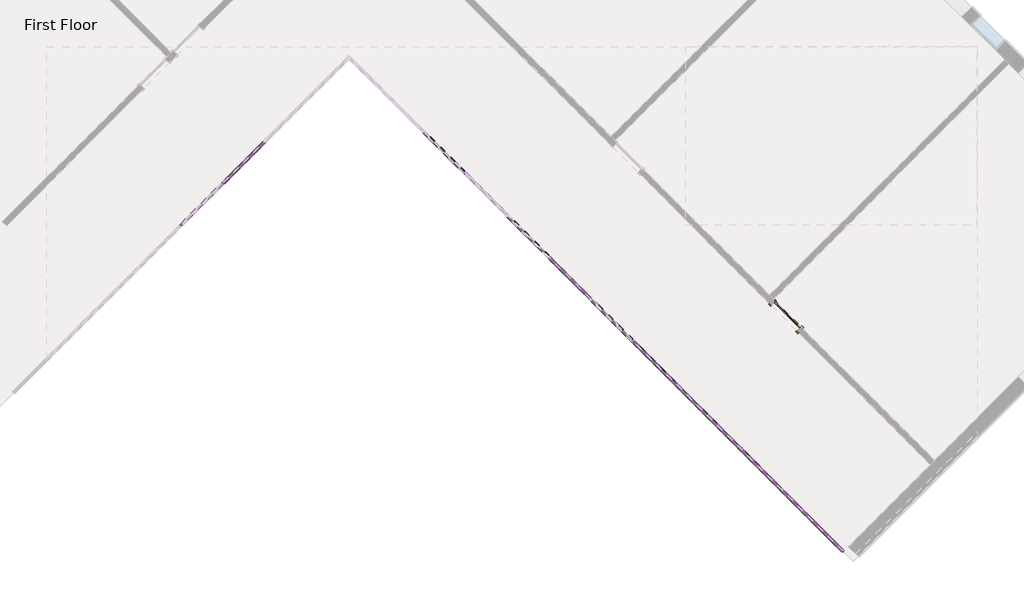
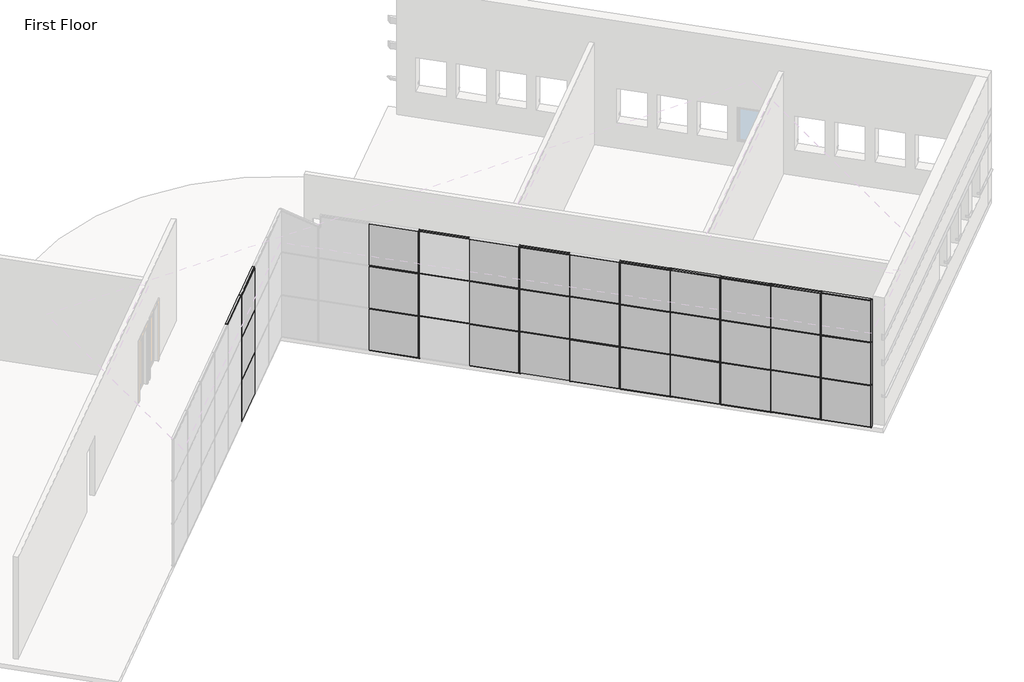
# One storey, part 2 of 5: 69 members, 30 plates, 1 door.
"""IFC4 building model written with IfcOpenShell, lengths in millimetres."""

from ifc_helpers import new_model, si_unit, origin, place, context, project, spatial, transform, mapped, element, save
from components import door_5f5b55da, member_b8a5b5c0, member_155beb68, member_f5090587, member_42be4715, member_6121af53, member_b87a50da, system_panel_solid_99f695d0, system_panel_solid_2f1037e2, system_panel_solid_51be2c86, system_panel_solid_5fd6f37f

model = new_model("IFC4")

# Units and contexts
model_context = context("Model", 3, world=origin())
ifc_project = project(units=[si_unit("LENGTHUNIT", "METRE", prefix="MILLI")], contexts=[model_context])

# Site, building, storey
site = spatial("IfcSite", under=ifc_project)
building = spatial("IfcBuilding", under=site)
storey = spatial("IfcBuildingStorey", under=building, Name="First Floor", Elevation=0.0)

# Door
placement = place(None, origin())
door_shape = door_5f5b55da(model_context)
element("IfcDoor", 1, ObjectType="Single-Glass 1 : 36\" x 84\"", at=placement, inside=storey, context=model_context, shape_type="MappedRepresentation", body=[
    mapped(door_shape, transform((7764.3490435, -4325.5874634, 0.0), x_axis=(-0.7071067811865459, 0.7071067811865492, 0.0), y_axis=(-0.7071067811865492, -0.7071067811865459, 0.0), z_axis=(0.0, 0.0, 1.0))),
])

# Members
member_shape = member_b8a5b5c0(model_context)
element("IfcMember", 2, ObjectType="Rectangular Mullion : 1.5\" x 2.5\" Rectangular", at=placement, inside=storey, context=model_context, shape_type="MappedRepresentation", body=[
    mapped(member_shape, transform((9212.415343, -10333.3788084, 0.0), x_axis=(0.0, 0.0, -1.0), y_axis=(0.707106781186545, 0.70710678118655, 0.0), z_axis=(0.7071067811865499, -0.7071067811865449, 0.0))),
])
member_2_shape = member_155beb68(model_context)
element("IfcMember", 3, ObjectType="Rectangular Mullion : 1.5\" x 2.5\" Rectangular", at=placement, inside=storey, context=model_context, shape_type="MappedRepresentation", body=[
    mapped(member_2_shape, transform((-6675.9027992, -910.8450733, 0.0), x_axis=(-0.7071067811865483, -0.7071067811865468, 0.0), y_axis=(-0.7071067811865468, 0.7071067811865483, 0.0), z_axis=(0.0, 0.0, -1.0))),
])
element("IfcMember", 4, ObjectType="Rectangular Mullion : 1.5\" x 2.5\" Rectangular", at=placement, inside=storey, context=model_context, shape_type="MappedRepresentation", body=[
    mapped(member_2_shape, transform((-7753.5335337, -1988.4758079, 0.0), x_axis=(-0.7071067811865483, -0.7071067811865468, 0.0), y_axis=(-0.7071067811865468, 0.7071067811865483, 0.0), z_axis=(0.0, 0.0, -1.0))),
])
element("IfcMember", 5, ObjectType="Rectangular Mullion : 1.5\" x 2.5\" Rectangular", at=placement, inside=storey, context=model_context, shape_type="MappedRepresentation", body=[
    mapped(member_2_shape, transform((8161.7253768, -9282.6888422, 0.0), x_axis=(-0.7071067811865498, 0.7071067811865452, 0.0), y_axis=(0.7071067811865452, 0.7071067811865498, 0.0), z_axis=(0.0, 0.0, -1.0))),
])
element("IfcMember", 6, ObjectType="Rectangular Mullion : 1.5\" x 2.5\" Rectangular", at=placement, inside=storey, context=model_context, shape_type="MappedRepresentation", body=[
    mapped(member_2_shape, transform((7084.0946423, -8205.0581077, 0.0), x_axis=(-0.7071067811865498, 0.7071067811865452, 0.0), y_axis=(0.7071067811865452, 0.7071067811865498, 0.0), z_axis=(0.0, 0.0, -1.0))),
])
element("IfcMember", 7, ObjectType="Rectangular Mullion : 1.5\" x 2.5\" Rectangular", at=placement, inside=storey, context=model_context, shape_type="MappedRepresentation", body=[
    mapped(member_2_shape, transform((6006.4639078, -7127.4273731, 0.0), x_axis=(-0.7071067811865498, 0.7071067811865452, 0.0), y_axis=(0.7071067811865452, 0.7071067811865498, 0.0), z_axis=(0.0, 0.0, -1.0))),
])
element("IfcMember", 8, ObjectType="Rectangular Mullion : 1.5\" x 2.5\" Rectangular", at=placement, inside=storey, context=model_context, shape_type="MappedRepresentation", body=[
    mapped(member_2_shape, transform((4928.8331733, -6049.7966386, 0.0), x_axis=(-0.7071067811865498, 0.7071067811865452, 0.0), y_axis=(0.7071067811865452, 0.7071067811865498, 0.0), z_axis=(0.0, 0.0, -1.0))),
])
element("IfcMember", 9, ObjectType="Rectangular Mullion : 1.5\" x 2.5\" Rectangular", at=placement, inside=storey, context=model_context, shape_type="MappedRepresentation", body=[
    mapped(member_2_shape, transform((3851.2024387, -4972.1659041, 0.0), x_axis=(-0.7071067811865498, 0.7071067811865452, 0.0), y_axis=(0.7071067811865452, 0.7071067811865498, 0.0), z_axis=(0.0, 0.0, -1.0))),
])
element("IfcMember", 10, ObjectType="Rectangular Mullion : 1.5\" x 2.5\" Rectangular", at=placement, inside=storey, context=model_context, shape_type="MappedRepresentation", body=[
    mapped(member_2_shape, transform((2773.5717042, -3894.5351696, 0.0), x_axis=(-0.7071067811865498, 0.7071067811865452, 0.0), y_axis=(0.7071067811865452, 0.7071067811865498, 0.0), z_axis=(0.0, 0.0, -1.0))),
])
element("IfcMember", 11, ObjectType="Rectangular Mullion : 1.5\" x 2.5\" Rectangular", at=placement, inside=storey, context=model_context, shape_type="MappedRepresentation", body=[
    mapped(member_2_shape, transform((1695.9409697, -2816.904435, 0.0), x_axis=(-0.7071067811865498, 0.7071067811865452, 0.0), y_axis=(0.7071067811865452, 0.7071067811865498, 0.0), z_axis=(0.0, 0.0, -1.0))),
])
element("IfcMember", 12, ObjectType="Rectangular Mullion : 1.5\" x 2.5\" Rectangular", at=placement, inside=storey, context=model_context, shape_type="MappedRepresentation", body=[
    mapped(member_2_shape, transform((-459.3204994, -661.642966, 0.0), x_axis=(-0.7071067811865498, 0.7071067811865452, 0.0), y_axis=(0.7071067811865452, 0.7071067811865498, 0.0), z_axis=(0.0, 0.0, -1.0))),
])
member_3_shape = member_f5090587(model_context)
element("IfcMember", 13, ObjectType="Rectangular Mullion : 1.5\" x 2.5\" Rectangular", at=placement, inside=storey, context=model_context, shape_type="MappedRepresentation", body=[
    mapped(member_3_shape, transform((8175.195761, -9296.1592264, 1524.0), x_axis=(0.0, 0.0, 1.0), y_axis=(0.707106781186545, 0.70710678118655, 0.0), z_axis=(-0.7071067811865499, 0.7071067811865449, 0.0))),
])
element("IfcMember", 14, ObjectType="Rectangular Mullion : 1.5\" x 2.5\" Rectangular", at=placement, inside=storey, context=model_context, shape_type="MappedRepresentation", body=[
    mapped(member_3_shape, transform((8175.195761, -9296.1592264, 3048.0), x_axis=(0.0, 0.0, 1.0), y_axis=(0.7071067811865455, 0.7071067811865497, 0.0), z_axis=(-0.7071067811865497, 0.7071067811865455, 0.0))),
])
member_4_shape = member_42be4715(model_context)
element("IfcMember", 15, ObjectType="Rectangular Mullion : 1.5\" x 2.5\" Rectangular", at=placement, inside=storey, context=model_context, shape_type="MappedRepresentation", body=[
    mapped(member_4_shape, transform((-6662.432415, -897.3746892, 1524.0), x_axis=(0.0, 0.0, 1.0), y_axis=(-0.7071067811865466, 0.7071067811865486, 0.0), z_axis=(-0.7071067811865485, -0.7071067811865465, 0.0))),
])
element("IfcMember", 16, ObjectType="Rectangular Mullion : 1.5\" x 2.5\" Rectangular", at=placement, inside=storey, context=model_context, shape_type="MappedRepresentation", body=[
    mapped(member_4_shape, transform((-7740.0631495, -1975.0054237, 1524.0), x_axis=(0.0, 0.0, 1.0), y_axis=(-0.707106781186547, 0.707106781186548, 0.0), z_axis=(-0.707106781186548, -0.707106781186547, 0.0))),
])
element("IfcMember", 17, ObjectType="Rectangular Mullion : 1.5\" x 2.5\" Rectangular", at=placement, inside=storey, context=model_context, shape_type="MappedRepresentation", body=[
    mapped(member_4_shape, transform((-6662.432415, -897.3746892, 3048.0), x_axis=(0.0, 0.0, 1.0), y_axis=(-0.7071067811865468, 0.7071067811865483, 0.0), z_axis=(-0.7071067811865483, -0.7071067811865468, 0.0))),
])
element("IfcMember", 18, ObjectType="Rectangular Mullion : 1.5\" x 2.5\" Rectangular", at=placement, inside=storey, context=model_context, shape_type="MappedRepresentation", body=[
    mapped(member_4_shape, transform((-7740.0631495, -1975.0054237, 3048.0), x_axis=(0.0, 0.0, 1.0), y_axis=(-0.7071067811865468, 0.7071067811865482, 0.0), z_axis=(-0.7071067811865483, -0.7071067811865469, 0.0))),
])
element("IfcMember", 19, ObjectType="Rectangular Mullion : 1.5\" x 2.5\" Rectangular", at=placement, inside=storey, context=model_context, shape_type="MappedRepresentation", body=[
    mapped(member_4_shape, transform((7097.5650265, -8218.5284919, 1524.0), x_axis=(0.0, 0.0, 1.0), y_axis=(0.7071067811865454, 0.7071067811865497, 0.0), z_axis=(-0.7071067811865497, 0.7071067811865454, 0.0))),
])
element("IfcMember", 20, ObjectType="Rectangular Mullion : 1.5\" x 2.5\" Rectangular", at=placement, inside=storey, context=model_context, shape_type="MappedRepresentation", body=[
    mapped(member_4_shape, transform((6019.934292, -7140.8977573, 1524.0), x_axis=(0.0, 0.0, 1.0), y_axis=(0.7071067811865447, 0.7071067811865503, 0.0), z_axis=(-0.7071067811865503, 0.7071067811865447, 0.0))),
])
element("IfcMember", 21, ObjectType="Rectangular Mullion : 1.5\" x 2.5\" Rectangular", at=placement, inside=storey, context=model_context, shape_type="MappedRepresentation", body=[
    mapped(member_4_shape, transform((4942.3035574, -6063.2670228, 1524.0), x_axis=(0.0, 0.0, 1.0), y_axis=(0.7071067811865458, 0.7071067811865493, 0.0), z_axis=(-0.7071067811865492, 0.7071067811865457, 0.0))),
])
element("IfcMember", 22, ObjectType="Rectangular Mullion : 1.5\" x 2.5\" Rectangular", at=placement, inside=storey, context=model_context, shape_type="MappedRepresentation", body=[
    mapped(member_4_shape, transform((3864.6728229, -4985.6362883, 1524.0), x_axis=(0.0, 0.0, 1.0), y_axis=(0.7071067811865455, 0.7071067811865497, 0.0), z_axis=(-0.7071067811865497, 0.7071067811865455, 0.0))),
])
element("IfcMember", 23, ObjectType="Rectangular Mullion : 1.5\" x 2.5\" Rectangular", at=placement, inside=storey, context=model_context, shape_type="MappedRepresentation", body=[
    mapped(member_4_shape, transform((2787.0420884, -3908.0055537, 1524.0), x_axis=(0.0, 0.0, 1.0), y_axis=(0.707106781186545, 0.70710678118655, 0.0), z_axis=(-0.7071067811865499, 0.7071067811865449, 0.0))),
])
element("IfcMember", 24, ObjectType="Rectangular Mullion : 1.5\" x 2.5\" Rectangular", at=placement, inside=storey, context=model_context, shape_type="MappedRepresentation", body=[
    mapped(member_4_shape, transform((1709.4113539, -2830.3748192, 1524.0), x_axis=(0.0, 0.0, 1.0), y_axis=(0.7071067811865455, 0.7071067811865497, 0.0), z_axis=(-0.7071067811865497, 0.7071067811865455, 0.0))),
])
element("IfcMember", 25, ObjectType="Rectangular Mullion : 1.5\" x 2.5\" Rectangular", at=placement, inside=storey, context=model_context, shape_type="MappedRepresentation", body=[
    mapped(member_4_shape, transform((-445.8501152, -675.1133502, 1524.0), x_axis=(0.0, 0.0, 1.0), y_axis=(0.707106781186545, 0.70710678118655, 0.0), z_axis=(-0.70710678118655, 0.707106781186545, 0.0))),
])
element("IfcMember", 26, ObjectType="Rectangular Mullion : 1.5\" x 2.5\" Rectangular", at=placement, inside=storey, context=model_context, shape_type="MappedRepresentation", body=[
    mapped(member_4_shape, transform((7097.5650265, -8218.5284919, 3048.0), x_axis=(0.0, 0.0, 1.0), y_axis=(0.707106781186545, 0.70710678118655, 0.0), z_axis=(-0.70710678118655, 0.707106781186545, 0.0))),
])
element("IfcMember", 27, ObjectType="Rectangular Mullion : 1.5\" x 2.5\" Rectangular", at=placement, inside=storey, context=model_context, shape_type="MappedRepresentation", body=[
    mapped(member_4_shape, transform((6019.934292, -7140.8977573, 3048.0), x_axis=(0.0, 0.0, 1.0), y_axis=(0.7071067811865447, 0.7071067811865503, 0.0), z_axis=(-0.7071067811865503, 0.7071067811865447, 0.0))),
])
element("IfcMember", 28, ObjectType="Rectangular Mullion : 1.5\" x 2.5\" Rectangular", at=placement, inside=storey, context=model_context, shape_type="MappedRepresentation", body=[
    mapped(member_4_shape, transform((4942.3035574, -6063.2670228, 3048.0), x_axis=(0.0, 0.0, 1.0), y_axis=(0.7071067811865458, 0.7071067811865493, 0.0), z_axis=(-0.7071067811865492, 0.7071067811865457, 0.0))),
])
element("IfcMember", 29, ObjectType="Rectangular Mullion : 1.5\" x 2.5\" Rectangular", at=placement, inside=storey, context=model_context, shape_type="MappedRepresentation", body=[
    mapped(member_4_shape, transform((3864.6728229, -4985.6362883, 3048.0), x_axis=(0.0, 0.0, 1.0), y_axis=(0.7071067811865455, 0.7071067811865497, 0.0), z_axis=(-0.7071067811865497, 0.7071067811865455, 0.0))),
])
element("IfcMember", 30, ObjectType="Rectangular Mullion : 1.5\" x 2.5\" Rectangular", at=placement, inside=storey, context=model_context, shape_type="MappedRepresentation", body=[
    mapped(member_4_shape, transform((2787.0420884, -3908.0055537, 3048.0), x_axis=(0.0, 0.0, 1.0), y_axis=(0.707106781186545, 0.70710678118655, 0.0), z_axis=(-0.7071067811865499, 0.7071067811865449, 0.0))),
])
element("IfcMember", 31, ObjectType="Rectangular Mullion : 1.5\" x 2.5\" Rectangular", at=placement, inside=storey, context=model_context, shape_type="MappedRepresentation", body=[
    mapped(member_4_shape, transform((1709.4113539, -2830.3748192, 3048.0), x_axis=(0.0, 0.0, 1.0), y_axis=(0.7071067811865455, 0.7071067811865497, 0.0), z_axis=(-0.7071067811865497, 0.7071067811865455, 0.0))),
])
element("IfcMember", 32, ObjectType="Rectangular Mullion : 1.5\" x 2.5\" Rectangular", at=placement, inside=storey, context=model_context, shape_type="MappedRepresentation", body=[
    mapped(member_4_shape, transform((-445.8501152, -675.1133502, 3048.0), x_axis=(0.0, 0.0, 1.0), y_axis=(0.7071067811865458, 0.7071067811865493, 0.0), z_axis=(-0.7071067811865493, 0.7071067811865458, 0.0))),
])
member_5_shape = member_6121af53(model_context)
element("IfcMember", 33, ObjectType="Rectangular Mullion : 1.5\" x 2.5\" Rectangular", at=placement, inside=storey, context=model_context, shape_type="MappedRepresentation", body=[
    mapped(member_5_shape, transform((-6689.3731834, -924.3154575, 0.0), x_axis=(0.0, 0.0, -1.0), y_axis=(-0.7071067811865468, 0.7071067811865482, 0.0), z_axis=(0.7071067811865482, 0.7071067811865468, 0.0))),
])
element("IfcMember", 34, ObjectType="Rectangular Mullion : 1.5\" x 2.5\" Rectangular", at=placement, inside=storey, context=model_context, shape_type="MappedRepresentation", body=[
    mapped(member_5_shape, transform((8148.2549927, -9269.218458, 0.0), x_axis=(0.0, 0.0, -1.0), y_axis=(0.7071067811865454, 0.7071067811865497, 0.0), z_axis=(0.7071067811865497, -0.7071067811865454, 0.0))),
])
element("IfcMember", 35, ObjectType="Rectangular Mullion : 1.5\" x 2.5\" Rectangular", at=placement, inside=storey, context=model_context, shape_type="MappedRepresentation", body=[
    mapped(member_5_shape, transform((7070.6242581, -8191.5877235, 0.0), x_axis=(0.0, 0.0, -1.0), y_axis=(0.7071067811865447, 0.7071067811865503, 0.0), z_axis=(0.7071067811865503, -0.7071067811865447, 0.0))),
])
element("IfcMember", 36, ObjectType="Rectangular Mullion : 1.5\" x 2.5\" Rectangular", at=placement, inside=storey, context=model_context, shape_type="MappedRepresentation", body=[
    mapped(member_5_shape, transform((5992.9935236, -7113.956989, 0.0), x_axis=(0.0, 0.0, -1.0), y_axis=(0.7071067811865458, 0.7071067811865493, 0.0), z_axis=(0.7071067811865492, -0.7071067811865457, 0.0))),
])
element("IfcMember", 37, ObjectType="Rectangular Mullion : 1.5\" x 2.5\" Rectangular", at=placement, inside=storey, context=model_context, shape_type="MappedRepresentation", body=[
    mapped(member_5_shape, transform((4915.3627891, -6036.3262544, 0.0), x_axis=(0.0, 0.0, -1.0), y_axis=(0.707106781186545, 0.70710678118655, 0.0), z_axis=(0.70710678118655, -0.707106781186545, 0.0))),
])
element("IfcMember", 38, ObjectType="Rectangular Mullion : 1.5\" x 2.5\" Rectangular", at=placement, inside=storey, context=model_context, shape_type="MappedRepresentation", body=[
    mapped(member_5_shape, transform((3837.7320545, -4958.6955199, 0.0), x_axis=(0.0, 0.0, -1.0), y_axis=(0.7071067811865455, 0.7071067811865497, 0.0), z_axis=(0.7071067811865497, -0.7071067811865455, 0.0))),
])
element("IfcMember", 39, ObjectType="Rectangular Mullion : 1.5\" x 2.5\" Rectangular", at=placement, inside=storey, context=model_context, shape_type="MappedRepresentation", body=[
    mapped(member_5_shape, transform((1682.4705855, -2803.4340508, 0.0), x_axis=(0.0, 0.0, -1.0), y_axis=(0.707106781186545, 0.70710678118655, 0.0), z_axis=(0.7071067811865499, -0.7071067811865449, 0.0))),
])
element("IfcMember", 40, ObjectType="Rectangular Mullion : 1.5\" x 2.5\" Rectangular", at=placement, inside=storey, context=model_context, shape_type="MappedRepresentation", body=[
    mapped(member_5_shape, transform((-472.7908836, -648.1725818, 0.0), x_axis=(0.0, 0.0, -1.0), y_axis=(0.7071067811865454, 0.7071067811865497, 0.0), z_axis=(0.7071067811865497, -0.7071067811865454, 0.0))),
])
element("IfcMember", 41, ObjectType="Rectangular Mullion : 1.5\" x 2.5\" Rectangular", at=placement, inside=storey, context=model_context, shape_type="MappedRepresentation", body=[
    mapped(member_shape, transform((8175.195761, -9296.1592264, 4572.0), x_axis=(0.0, 0.0, 1.0), y_axis=(0.7071067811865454, 0.7071067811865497, 0.0), z_axis=(-0.7071067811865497, 0.7071067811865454, 0.0))),
])
element("IfcMember", 42, ObjectType="Rectangular Mullion : 1.5\" x 2.5\" Rectangular", at=placement, inside=storey, context=model_context, shape_type="MappedRepresentation", body=[
    mapped(member_5_shape, transform((-6662.432415, -897.3746892, 4572.0), x_axis=(0.0, 0.0, 1.0), y_axis=(-0.7071067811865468, 0.7071067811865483, 0.0), z_axis=(-0.7071067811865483, -0.7071067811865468, 0.0))),
])
element("IfcMember", 43, ObjectType="Rectangular Mullion : 1.5\" x 2.5\" Rectangular", at=placement, inside=storey, context=model_context, shape_type="MappedRepresentation", body=[
    mapped(member_5_shape, transform((-7740.0631495, -1975.0054237, 4572.0), x_axis=(0.0, 0.0, 1.0), y_axis=(-0.7071067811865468, 0.7071067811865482, 0.0), z_axis=(-0.7071067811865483, -0.7071067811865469, 0.0))),
])
element("IfcMember", 44, ObjectType="Rectangular Mullion : 1.5\" x 2.5\" Rectangular", at=placement, inside=storey, context=model_context, shape_type="MappedRepresentation", body=[
    mapped(member_5_shape, transform((7097.5650265, -8218.5284919, 4572.0), x_axis=(0.0, 0.0, 1.0), y_axis=(0.7071067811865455, 0.7071067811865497, 0.0), z_axis=(-0.7071067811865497, 0.7071067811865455, 0.0))),
])
element("IfcMember", 45, ObjectType="Rectangular Mullion : 1.5\" x 2.5\" Rectangular", at=placement, inside=storey, context=model_context, shape_type="MappedRepresentation", body=[
    mapped(member_5_shape, transform((6019.934292, -7140.8977573, 4572.0), x_axis=(0.0, 0.0, 1.0), y_axis=(0.7071067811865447, 0.7071067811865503, 0.0), z_axis=(-0.7071067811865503, 0.7071067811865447, 0.0))),
])
element("IfcMember", 46, ObjectType="Rectangular Mullion : 1.5\" x 2.5\" Rectangular", at=placement, inside=storey, context=model_context, shape_type="MappedRepresentation", body=[
    mapped(member_5_shape, transform((4942.3035574, -6063.2670228, 4572.0), x_axis=(0.0, 0.0, 1.0), y_axis=(0.7071067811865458, 0.7071067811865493, 0.0), z_axis=(-0.7071067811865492, 0.7071067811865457, 0.0))),
])
element("IfcMember", 47, ObjectType="Rectangular Mullion : 1.5\" x 2.5\" Rectangular", at=placement, inside=storey, context=model_context, shape_type="MappedRepresentation", body=[
    mapped(member_5_shape, transform((3864.6728229, -4985.6362883, 4572.0), x_axis=(0.0, 0.0, 1.0), y_axis=(0.7071067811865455, 0.7071067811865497, 0.0), z_axis=(-0.7071067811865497, 0.7071067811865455, 0.0))),
])
element("IfcMember", 48, ObjectType="Rectangular Mullion : 1.5\" x 2.5\" Rectangular", at=placement, inside=storey, context=model_context, shape_type="MappedRepresentation", body=[
    mapped(member_5_shape, transform((1709.4113539, -2830.3748192, 4572.0), x_axis=(0.0, 0.0, 1.0), y_axis=(0.7071067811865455, 0.7071067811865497, 0.0), z_axis=(-0.7071067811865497, 0.7071067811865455, 0.0))),
])
element("IfcMember", 49, ObjectType="Rectangular Mullion : 1.5\" x 2.5\" Rectangular", at=placement, inside=storey, context=model_context, shape_type="MappedRepresentation", body=[
    mapped(member_5_shape, transform((-445.8501152, -675.1133502, 4572.0), x_axis=(0.0, 0.0, 1.0), y_axis=(0.7071067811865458, 0.7071067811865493, 0.0), z_axis=(-0.7071067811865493, 0.7071067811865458, 0.0))),
])
element("IfcMember", 50, ObjectType="Rectangular Mullion : 1.5\" x 2.5\" Rectangular", at=placement, inside=storey, context=model_context, shape_type="MappedRepresentation", body=[
    mapped(member_2_shape, transform((-6675.9027992, -910.8450733, 1524.0), x_axis=(-0.7071067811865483, -0.7071067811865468, 0.0), y_axis=(-0.7071067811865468, 0.7071067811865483, 0.0), z_axis=(0.0, 0.0, -1.0))),
])
element("IfcMember", 51, ObjectType="Rectangular Mullion : 1.5\" x 2.5\" Rectangular", at=placement, inside=storey, context=model_context, shape_type="MappedRepresentation", body=[
    mapped(member_2_shape, transform((-7753.5335337, -1988.4758079, 1524.0), x_axis=(-0.7071067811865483, -0.7071067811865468, 0.0), y_axis=(-0.7071067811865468, 0.7071067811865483, 0.0), z_axis=(0.0, 0.0, -1.0))),
])
element("IfcMember", 52, ObjectType="Rectangular Mullion : 1.5\" x 2.5\" Rectangular", at=placement, inside=storey, context=model_context, shape_type="MappedRepresentation", body=[
    mapped(member_2_shape, transform((8161.7253768, -9282.6888422, 1524.0), x_axis=(-0.7071067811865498, 0.7071067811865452, 0.0), y_axis=(0.7071067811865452, 0.7071067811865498, 0.0), z_axis=(0.0, 0.0, -1.0))),
])
element("IfcMember", 53, ObjectType="Rectangular Mullion : 1.5\" x 2.5\" Rectangular", at=placement, inside=storey, context=model_context, shape_type="MappedRepresentation", body=[
    mapped(member_2_shape, transform((7084.0946423, -8205.0581077, 1524.0), x_axis=(-0.7071067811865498, 0.7071067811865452, 0.0), y_axis=(0.7071067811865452, 0.7071067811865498, 0.0), z_axis=(0.0, 0.0, -1.0))),
])
element("IfcMember", 54, ObjectType="Rectangular Mullion : 1.5\" x 2.5\" Rectangular", at=placement, inside=storey, context=model_context, shape_type="MappedRepresentation", body=[
    mapped(member_2_shape, transform((6006.4639078, -7127.4273731, 1524.0), x_axis=(-0.7071067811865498, 0.7071067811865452, 0.0), y_axis=(0.7071067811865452, 0.7071067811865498, 0.0), z_axis=(0.0, 0.0, -1.0))),
])
element("IfcMember", 55, ObjectType="Rectangular Mullion : 1.5\" x 2.5\" Rectangular", at=placement, inside=storey, context=model_context, shape_type="MappedRepresentation", body=[
    mapped(member_2_shape, transform((4928.8331733, -6049.7966386, 1524.0), x_axis=(-0.7071067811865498, 0.7071067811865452, 0.0), y_axis=(0.7071067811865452, 0.7071067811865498, 0.0), z_axis=(0.0, 0.0, -1.0))),
])
element("IfcMember", 56, ObjectType="Rectangular Mullion : 1.5\" x 2.5\" Rectangular", at=placement, inside=storey, context=model_context, shape_type="MappedRepresentation", body=[
    mapped(member_2_shape, transform((3851.2024387, -4972.1659041, 1524.0), x_axis=(-0.7071067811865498, 0.7071067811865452, 0.0), y_axis=(0.7071067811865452, 0.7071067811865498, 0.0), z_axis=(0.0, 0.0, -1.0))),
])
element("IfcMember", 57, ObjectType="Rectangular Mullion : 1.5\" x 2.5\" Rectangular", at=placement, inside=storey, context=model_context, shape_type="MappedRepresentation", body=[
    mapped(member_2_shape, transform((1695.9409697, -2816.904435, 1524.0), x_axis=(-0.7071067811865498, 0.7071067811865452, 0.0), y_axis=(0.7071067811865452, 0.7071067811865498, 0.0), z_axis=(0.0, 0.0, -1.0))),
])
element("IfcMember", 58, ObjectType="Rectangular Mullion : 1.5\" x 2.5\" Rectangular", at=placement, inside=storey, context=model_context, shape_type="MappedRepresentation", body=[
    mapped(member_2_shape, transform((-459.3204994, -661.642966, 1524.0), x_axis=(-0.7071067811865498, 0.7071067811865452, 0.0), y_axis=(0.7071067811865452, 0.7071067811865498, 0.0), z_axis=(0.0, 0.0, -1.0))),
])
element("IfcMember", 59, ObjectType="Rectangular Mullion : 1.5\" x 2.5\" Rectangular", at=placement, inside=storey, context=model_context, shape_type="MappedRepresentation", body=[
    mapped(member_2_shape, transform((-6675.9027992, -910.8450733, 3048.0), x_axis=(-0.7071067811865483, -0.7071067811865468, 0.0), y_axis=(-0.7071067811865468, 0.7071067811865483, 0.0), z_axis=(0.0, 0.0, -1.0))),
])
element("IfcMember", 60, ObjectType="Rectangular Mullion : 1.5\" x 2.5\" Rectangular", at=placement, inside=storey, context=model_context, shape_type="MappedRepresentation", body=[
    mapped(member_2_shape, transform((-7753.5335337, -1988.4758079, 3048.0), x_axis=(-0.7071067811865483, -0.7071067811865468, 0.0), y_axis=(-0.7071067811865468, 0.7071067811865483, 0.0), z_axis=(0.0, 0.0, -1.0))),
])
element("IfcMember", 61, ObjectType="Rectangular Mullion : 1.5\" x 2.5\" Rectangular", at=placement, inside=storey, context=model_context, shape_type="MappedRepresentation", body=[
    mapped(member_2_shape, transform((8161.7253768, -9282.6888422, 3048.0), x_axis=(-0.7071067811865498, 0.7071067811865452, 0.0), y_axis=(0.7071067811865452, 0.7071067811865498, 0.0), z_axis=(0.0, 0.0, -1.0))),
])
element("IfcMember", 62, ObjectType="Rectangular Mullion : 1.5\" x 2.5\" Rectangular", at=placement, inside=storey, context=model_context, shape_type="MappedRepresentation", body=[
    mapped(member_2_shape, transform((7084.0946423, -8205.0581077, 3048.0), x_axis=(-0.7071067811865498, 0.7071067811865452, 0.0), y_axis=(0.7071067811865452, 0.7071067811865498, 0.0), z_axis=(0.0, 0.0, -1.0))),
])
element("IfcMember", 63, ObjectType="Rectangular Mullion : 1.5\" x 2.5\" Rectangular", at=placement, inside=storey, context=model_context, shape_type="MappedRepresentation", body=[
    mapped(member_2_shape, transform((6006.4639078, -7127.4273731, 3048.0), x_axis=(-0.7071067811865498, 0.7071067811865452, 0.0), y_axis=(0.7071067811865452, 0.7071067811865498, 0.0), z_axis=(0.0, 0.0, -1.0))),
])
element("IfcMember", 64, ObjectType="Rectangular Mullion : 1.5\" x 2.5\" Rectangular", at=placement, inside=storey, context=model_context, shape_type="MappedRepresentation", body=[
    mapped(member_2_shape, transform((4928.8331733, -6049.7966386, 3048.0), x_axis=(-0.7071067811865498, 0.7071067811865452, 0.0), y_axis=(0.7071067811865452, 0.7071067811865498, 0.0), z_axis=(0.0, 0.0, -1.0))),
])
element("IfcMember", 65, ObjectType="Rectangular Mullion : 1.5\" x 2.5\" Rectangular", at=placement, inside=storey, context=model_context, shape_type="MappedRepresentation", body=[
    mapped(member_2_shape, transform((3851.2024387, -4972.1659041, 3048.0), x_axis=(-0.7071067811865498, 0.7071067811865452, 0.0), y_axis=(0.7071067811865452, 0.7071067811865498, 0.0), z_axis=(0.0, 0.0, -1.0))),
])
element("IfcMember", 66, ObjectType="Rectangular Mullion : 1.5\" x 2.5\" Rectangular", at=placement, inside=storey, context=model_context, shape_type="MappedRepresentation", body=[
    mapped(member_2_shape, transform((1695.9409697, -2816.904435, 3048.0), x_axis=(-0.7071067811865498, 0.7071067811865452, 0.0), y_axis=(0.7071067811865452, 0.7071067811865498, 0.0), z_axis=(0.0, 0.0, -1.0))),
])
element("IfcMember", 67, ObjectType="Rectangular Mullion : 1.5\" x 2.5\" Rectangular", at=placement, inside=storey, context=model_context, shape_type="MappedRepresentation", body=[
    mapped(member_2_shape, transform((-459.3204994, -661.642966, 3048.0), x_axis=(-0.7071067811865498, 0.7071067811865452, 0.0), y_axis=(0.7071067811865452, 0.7071067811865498, 0.0), z_axis=(0.0, 0.0, -1.0))),
])
member_6_shape = member_b87a50da(model_context)
element("IfcMember", 68, ObjectType="Rectangular Mullion : 1.5\" x 2.5\" Rectangular", at=placement, inside=storey, context=model_context, shape_type="MappedRepresentation", body=[
    mapped(member_6_shape, transform((9239.3561114, -10360.3195767, 4572.0), x_axis=(0.7071067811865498, -0.7071067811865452, 0.0), y_axis=(0.7071067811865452, 0.7071067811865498, 0.0), z_axis=(0.0, 0.0, 1.0))),
])
element("IfcMember", 69, ObjectType="Rectangular Mullion : 1.5\" x 2.5\" Rectangular", at=placement, inside=storey, context=model_context, shape_type="MappedRepresentation", body=[
    mapped(member_6_shape, transform((9239.3561114, -10360.3195767, 1524.0), x_axis=(0.7071067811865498, -0.7071067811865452, 0.0), y_axis=(0.7071067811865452, 0.7071067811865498, 0.0), z_axis=(0.0, 0.0, 1.0))),
])
element("IfcMember", 70, ObjectType="Rectangular Mullion : 1.5\" x 2.5\" Rectangular", at=placement, inside=storey, context=model_context, shape_type="MappedRepresentation", body=[
    mapped(member_6_shape, transform((9239.3561114, -10360.3195767, 3048.0), x_axis=(0.7071067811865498, -0.7071067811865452, 0.0), y_axis=(0.7071067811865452, 0.7071067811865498, 0.0), z_axis=(0.0, 0.0, 1.0))),
])

# Plates
system_panel_solid_shape = system_panel_solid_99f695d0(model_context)
element("IfcPlate", 71, ObjectType="System Panel : Solid", at=placement, inside=storey, context=model_context, shape_type="MappedRepresentation", body=[
    mapped(system_panel_solid_shape, transform((8693.805552, -9814.7690174, 38.1), x_axis=(-0.7071067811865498, 0.7071067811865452, 0.0), y_axis=(-0.7071067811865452, -0.7071067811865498, 0.0), z_axis=(0.0, 0.0, 1.0))),
])
element("IfcPlate", 72, ObjectType="System Panel : Solid", at=placement, inside=storey, context=model_context, shape_type="MappedRepresentation", body=[
    mapped(system_panel_solid_shape, transform((8693.805552, -9814.7690174, 3067.05), x_axis=(-0.7071067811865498, 0.7071067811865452, 0.0), y_axis=(-0.7071067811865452, -0.7071067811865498, 0.0), z_axis=(0.0, 0.0, 1.0))),
])
system_panel_solid_2_shape = system_panel_solid_2f1037e2(model_context)
element("IfcPlate", 73, ObjectType="System Panel : Solid", at=placement, inside=storey, context=model_context, shape_type="MappedRepresentation", body=[
    mapped(system_panel_solid_2_shape, transform((7622.9100096, -8743.8734749, 38.1), x_axis=(-0.7071067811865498, 0.7071067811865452, 0.0), y_axis=(-0.7071067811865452, -0.7071067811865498, 0.0), z_axis=(0.0, 0.0, 1.0))),
])
element("IfcPlate", 74, ObjectType="System Panel : Solid", at=placement, inside=storey, context=model_context, shape_type="MappedRepresentation", body=[
    mapped(system_panel_solid_2_shape, transform((6545.2792751, -7666.2427404, 38.1), x_axis=(-0.7071067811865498, 0.7071067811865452, 0.0), y_axis=(-0.7071067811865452, -0.7071067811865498, 0.0), z_axis=(0.0, 0.0, 1.0))),
])
element("IfcPlate", 75, ObjectType="System Panel : Solid", at=placement, inside=storey, context=model_context, shape_type="MappedRepresentation", body=[
    mapped(system_panel_solid_2_shape, transform((5467.6485405, -6588.6120059, 38.1), x_axis=(-0.7071067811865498, 0.7071067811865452, 0.0), y_axis=(-0.7071067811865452, -0.7071067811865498, 0.0), z_axis=(0.0, 0.0, 1.0))),
])
element("IfcPlate", 76, ObjectType="System Panel : Solid", at=placement, inside=storey, context=model_context, shape_type="MappedRepresentation", body=[
    mapped(system_panel_solid_2_shape, transform((4390.017806, -5510.9812714, 38.1), x_axis=(-0.7071067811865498, 0.7071067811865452, 0.0), y_axis=(-0.7071067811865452, -0.7071067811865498, 0.0), z_axis=(0.0, 0.0, 1.0))),
])
element("IfcPlate", 77, ObjectType="System Panel : Solid", at=placement, inside=storey, context=model_context, shape_type="MappedRepresentation", body=[
    mapped(system_panel_solid_2_shape, transform((3312.3870715, -4433.3505368, 38.1), x_axis=(-0.7071067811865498, 0.7071067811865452, 0.0), y_axis=(-0.7071067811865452, -0.7071067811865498, 0.0), z_axis=(0.0, 0.0, 1.0))),
])
element("IfcPlate", 78, ObjectType="System Panel : Solid", at=placement, inside=storey, context=model_context, shape_type="MappedRepresentation", body=[
    mapped(system_panel_solid_2_shape, transform((2234.7563369, -3355.7198023, 38.1), x_axis=(-0.7071067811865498, 0.7071067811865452, 0.0), y_axis=(-0.7071067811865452, -0.7071067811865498, 0.0), z_axis=(0.0, 0.0, 1.0))),
])
element("IfcPlate", 79, ObjectType="System Panel : Solid", at=placement, inside=storey, context=model_context, shape_type="MappedRepresentation", body=[
    mapped(system_panel_solid_2_shape, transform((1157.1256024, -2278.0890678, 38.1), x_axis=(-0.7071067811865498, 0.7071067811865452, 0.0), y_axis=(-0.7071067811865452, -0.7071067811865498, 0.0), z_axis=(0.0, 0.0, 1.0))),
])
element("IfcPlate", 80, ObjectType="System Panel : Solid", at=placement, inside=storey, context=model_context, shape_type="MappedRepresentation", body=[
    mapped(system_panel_solid_2_shape, transform((-998.1358666, -122.8275987, 38.1), x_axis=(-0.7071067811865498, 0.7071067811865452, 0.0), y_axis=(-0.7071067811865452, -0.7071067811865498, 0.0), z_axis=(0.0, 0.0, 1.0))),
])
element("IfcPlate", 81, ObjectType="System Panel : Solid", at=placement, inside=storey, context=model_context, shape_type="MappedRepresentation", body=[
    mapped(system_panel_solid_2_shape, transform((-6137.0874319, -372.0297061, 38.1), x_axis=(-0.7071067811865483, -0.7071067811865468, 0.0), y_axis=(0.7071067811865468, -0.7071067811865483, 0.0), z_axis=(0.0, 0.0, 1.0))),
])
element("IfcPlate", 82, ObjectType="System Panel : Solid", at=placement, inside=storey, context=model_context, shape_type="MappedRepresentation", body=[
    mapped(system_panel_solid_2_shape, transform((7622.9100096, -8743.8734749, 3067.05), x_axis=(-0.7071067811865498, 0.7071067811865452, 0.0), y_axis=(-0.7071067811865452, -0.7071067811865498, 0.0), z_axis=(0.0, 0.0, 1.0))),
])
element("IfcPlate", 83, ObjectType="System Panel : Solid", at=placement, inside=storey, context=model_context, shape_type="MappedRepresentation", body=[
    mapped(system_panel_solid_2_shape, transform((6545.2792751, -7666.2427404, 3067.05), x_axis=(-0.7071067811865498, 0.7071067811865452, 0.0), y_axis=(-0.7071067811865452, -0.7071067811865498, 0.0), z_axis=(0.0, 0.0, 1.0))),
])
element("IfcPlate", 84, ObjectType="System Panel : Solid", at=placement, inside=storey, context=model_context, shape_type="MappedRepresentation", body=[
    mapped(system_panel_solid_2_shape, transform((5467.6485405, -6588.6120059, 3067.05), x_axis=(-0.7071067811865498, 0.7071067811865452, 0.0), y_axis=(-0.7071067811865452, -0.7071067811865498, 0.0), z_axis=(0.0, 0.0, 1.0))),
])
element("IfcPlate", 85, ObjectType="System Panel : Solid", at=placement, inside=storey, context=model_context, shape_type="MappedRepresentation", body=[
    mapped(system_panel_solid_2_shape, transform((4390.017806, -5510.9812714, 3067.05), x_axis=(-0.7071067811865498, 0.7071067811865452, 0.0), y_axis=(-0.7071067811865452, -0.7071067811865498, 0.0), z_axis=(0.0, 0.0, 1.0))),
])
element("IfcPlate", 86, ObjectType="System Panel : Solid", at=placement, inside=storey, context=model_context, shape_type="MappedRepresentation", body=[
    mapped(system_panel_solid_2_shape, transform((3312.3870715, -4433.3505368, 3067.05), x_axis=(-0.7071067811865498, 0.7071067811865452, 0.0), y_axis=(-0.7071067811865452, -0.7071067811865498, 0.0), z_axis=(0.0, 0.0, 1.0))),
])
element("IfcPlate", 87, ObjectType="System Panel : Solid", at=placement, inside=storey, context=model_context, shape_type="MappedRepresentation", body=[
    mapped(system_panel_solid_2_shape, transform((2234.7563369, -3355.7198023, 3067.05), x_axis=(-0.7071067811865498, 0.7071067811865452, 0.0), y_axis=(-0.7071067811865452, -0.7071067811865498, 0.0), z_axis=(0.0, 0.0, 1.0))),
])
element("IfcPlate", 88, ObjectType="System Panel : Solid", at=placement, inside=storey, context=model_context, shape_type="MappedRepresentation", body=[
    mapped(system_panel_solid_2_shape, transform((1157.1256024, -2278.0890678, 3067.05), x_axis=(-0.7071067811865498, 0.7071067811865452, 0.0), y_axis=(-0.7071067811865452, -0.7071067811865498, 0.0), z_axis=(0.0, 0.0, 1.0))),
])
element("IfcPlate", 89, ObjectType="System Panel : Solid", at=placement, inside=storey, context=model_context, shape_type="MappedRepresentation", body=[
    mapped(system_panel_solid_2_shape, transform((-998.1358666, -122.8275987, 3067.05), x_axis=(-0.7071067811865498, 0.7071067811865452, 0.0), y_axis=(-0.7071067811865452, -0.7071067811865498, 0.0), z_axis=(0.0, 0.0, 1.0))),
])
element("IfcPlate", 90, ObjectType="System Panel : Solid", at=placement, inside=storey, context=model_context, shape_type="MappedRepresentation", body=[
    mapped(system_panel_solid_2_shape, transform((-6137.0874319, -372.0297061, 3067.05), x_axis=(-0.7071067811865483, -0.7071067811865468, 0.0), y_axis=(0.7071067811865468, -0.7071067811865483, 0.0), z_axis=(0.0, 0.0, 1.0))),
])
system_panel_solid_3_shape = system_panel_solid_51be2c86(model_context)
element("IfcPlate", 91, ObjectType="System Panel : Solid", at=placement, inside=storey, context=model_context, shape_type="MappedRepresentation", body=[
    mapped(system_panel_solid_3_shape, transform((8693.805552, -9814.7690174, 1543.05), x_axis=(-0.7071067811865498, 0.7071067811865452, 0.0), y_axis=(-0.7071067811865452, -0.7071067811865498, 0.0), z_axis=(0.0, 0.0, 1.0))),
])
system_panel_solid_4_shape = system_panel_solid_5fd6f37f(model_context)
element("IfcPlate", 92, ObjectType="System Panel : Solid", at=placement, inside=storey, context=model_context, shape_type="MappedRepresentation", body=[
    mapped(system_panel_solid_4_shape, transform((7622.9100096, -8743.8734749, 1543.05), x_axis=(-0.7071067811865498, 0.7071067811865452, 0.0), y_axis=(-0.7071067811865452, -0.7071067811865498, 0.0), z_axis=(0.0, 0.0, 1.0))),
])
element("IfcPlate", 93, ObjectType="System Panel : Solid", at=placement, inside=storey, context=model_context, shape_type="MappedRepresentation", body=[
    mapped(system_panel_solid_4_shape, transform((6545.2792751, -7666.2427404, 1543.05), x_axis=(-0.7071067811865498, 0.7071067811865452, 0.0), y_axis=(-0.7071067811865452, -0.7071067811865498, 0.0), z_axis=(0.0, 0.0, 1.0))),
])
element("IfcPlate", 94, ObjectType="System Panel : Solid", at=placement, inside=storey, context=model_context, shape_type="MappedRepresentation", body=[
    mapped(system_panel_solid_4_shape, transform((5467.6485405, -6588.6120059, 1543.05), x_axis=(-0.7071067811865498, 0.7071067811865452, 0.0), y_axis=(-0.7071067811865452, -0.7071067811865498, 0.0), z_axis=(0.0, 0.0, 1.0))),
])
element("IfcPlate", 95, ObjectType="System Panel : Solid", at=placement, inside=storey, context=model_context, shape_type="MappedRepresentation", body=[
    mapped(system_panel_solid_4_shape, transform((4390.017806, -5510.9812714, 1543.05), x_axis=(-0.7071067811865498, 0.7071067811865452, 0.0), y_axis=(-0.7071067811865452, -0.7071067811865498, 0.0), z_axis=(0.0, 0.0, 1.0))),
])
element("IfcPlate", 96, ObjectType="System Panel : Solid", at=placement, inside=storey, context=model_context, shape_type="MappedRepresentation", body=[
    mapped(system_panel_solid_4_shape, transform((3312.3870715, -4433.3505368, 1543.05), x_axis=(-0.7071067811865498, 0.7071067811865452, 0.0), y_axis=(-0.7071067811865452, -0.7071067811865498, 0.0), z_axis=(0.0, 0.0, 1.0))),
])
element("IfcPlate", 97, ObjectType="System Panel : Solid", at=placement, inside=storey, context=model_context, shape_type="MappedRepresentation", body=[
    mapped(system_panel_solid_4_shape, transform((2234.7563369, -3355.7198023, 1543.05), x_axis=(-0.7071067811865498, 0.7071067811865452, 0.0), y_axis=(-0.7071067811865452, -0.7071067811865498, 0.0), z_axis=(0.0, 0.0, 1.0))),
])
element("IfcPlate", 98, ObjectType="System Panel : Solid", at=placement, inside=storey, context=model_context, shape_type="MappedRepresentation", body=[
    mapped(system_panel_solid_4_shape, transform((1157.1256024, -2278.0890678, 1543.05), x_axis=(-0.7071067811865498, 0.7071067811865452, 0.0), y_axis=(-0.7071067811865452, -0.7071067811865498, 0.0), z_axis=(0.0, 0.0, 1.0))),
])
element("IfcPlate", 99, ObjectType="System Panel : Solid", at=placement, inside=storey, context=model_context, shape_type="MappedRepresentation", body=[
    mapped(system_panel_solid_4_shape, transform((-998.1358666, -122.8275987, 1543.05), x_axis=(-0.7071067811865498, 0.7071067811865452, 0.0), y_axis=(-0.7071067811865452, -0.7071067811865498, 0.0), z_axis=(0.0, 0.0, 1.0))),
])
element("IfcPlate", 100, ObjectType="System Panel : Solid", at=placement, inside=storey, context=model_context, shape_type="MappedRepresentation", body=[
    mapped(system_panel_solid_4_shape, transform((-6137.0874319, -372.0297061, 1543.05), x_axis=(-0.7071067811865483, -0.7071067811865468, 0.0), y_axis=(0.7071067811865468, -0.7071067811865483, 0.0), z_axis=(0.0, 0.0, 1.0))),
])

save(model, "model.ifc")
